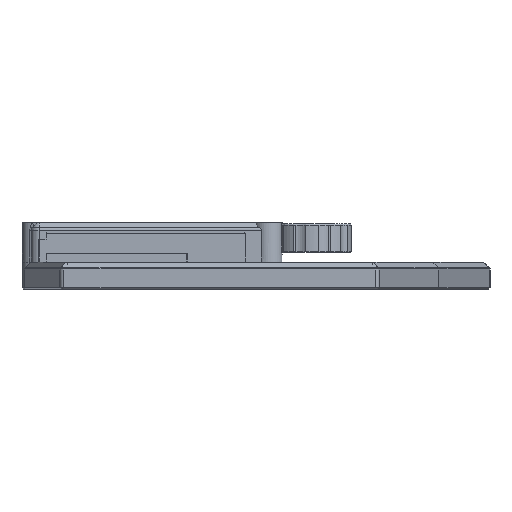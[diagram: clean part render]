
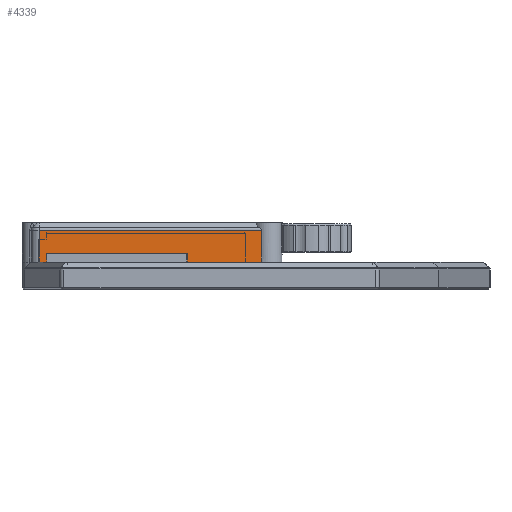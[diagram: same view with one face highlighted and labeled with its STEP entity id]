
A CAD part, left-side view. The second image highlights one B-rep face of the part: STEP entity #4339.
In plain terms, the highlighted planar face has unit normal (-1, 0, 0).
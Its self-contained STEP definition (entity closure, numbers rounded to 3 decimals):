
#3771=CARTESIAN_POINT('',(35.474,-91.828,10.15));
#3772=VERTEX_POINT('',#3771);
#3780=CARTESIAN_POINT('',(35.474,-73.321,10.15));
#3781=VERTEX_POINT('',#3780);
#3782=CARTESIAN_POINT('',(35.474,-73.321,10.15));
#3783=DIRECTION('',(0.,-1.,0.));
#3784=VECTOR('',#3783,18.507);
#3785=LINE('',#3782,#3784);
#3786=EDGE_CURVE('',#3781,#3772,#3785,.T.);
#3811=CARTESIAN_POINT('',(35.474,-73.321,12.35));
#3812=VERTEX_POINT('',#3811);
#3813=CARTESIAN_POINT('',(35.474,-73.321,12.35));
#3814=DIRECTION('',(0.,0.,-1.));
#3815=VECTOR('',#3814,2.2);
#3816=LINE('',#3813,#3815);
#3817=EDGE_CURVE('',#3812,#3781,#3816,.T.);
#3833=CARTESIAN_POINT('',(35.475,-38.321,12.35));
#3834=VERTEX_POINT('',#3833);
#3835=CARTESIAN_POINT('',(35.475,-38.321,12.35));
#3836=DIRECTION('',(0.,-1.,0.));
#3837=VECTOR('',#3836,35.);
#3838=LINE('',#3835,#3837);
#3839=EDGE_CURVE('',#3834,#3812,#3838,.T.);
#3865=CARTESIAN_POINT('',(35.475,-38.321,10.15));
#3866=VERTEX_POINT('',#3865);
#3867=CARTESIAN_POINT('',(35.475,-38.321,12.35));
#3868=DIRECTION('',(0.,0.,-1.));
#3869=VECTOR('',#3868,2.2);
#3870=LINE('',#3867,#3869);
#3871=EDGE_CURVE('',#3834,#3866,#3870,.T.);
#3920=CARTESIAN_POINT('',(35.475,-36.497,10.15));
#3921=VERTEX_POINT('',#3920);
#3922=CARTESIAN_POINT('',(35.475,-36.497,10.15));
#3923=DIRECTION('',(0.,-1.,0.));
#3924=VECTOR('',#3923,1.823);
#3925=LINE('',#3922,#3924);
#3926=EDGE_CURVE('',#3921,#3866,#3925,.T.);
#4294=CARTESIAN_POINT('',(35.475,-36.497,18.086));
#4295=VERTEX_POINT('',#4294);
#4296=CARTESIAN_POINT('',(35.475,-36.497,10.15));
#4297=DIRECTION('',(-0.,-0.,1.));
#4298=VECTOR('',#4297,7.936);
#4299=LINE('',#4296,#4298);
#4300=EDGE_CURVE('',#3921,#4295,#4299,.T.);
#4312=CARTESIAN_POINT('',(35.474,-66.041,13.15));
#4313=DIRECTION('',(-1.,0.,0.));
#4314=DIRECTION('',(0.,1.,0.));
#4315=AXIS2_PLACEMENT_3D('',#4312,#4313,#4314);
#4316=PLANE('',#4315);
#4317=CARTESIAN_POINT('',(35.474,-91.828,18.086));
#4318=VERTEX_POINT('',#4317);
#4319=CARTESIAN_POINT('',(35.475,-36.497,18.086));
#4320=DIRECTION('',(0.,-1.,-0.));
#4321=VECTOR('',#4320,55.331);
#4322=LINE('',#4319,#4321);
#4323=EDGE_CURVE('',#4295,#4318,#4322,.T.);
#4324=ORIENTED_EDGE('',*,*,#4323,.F.);
#4325=ORIENTED_EDGE('',*,*,#4300,.F.);
#4326=ORIENTED_EDGE('',*,*,#3926,.T.);
#4327=ORIENTED_EDGE('',*,*,#3871,.F.);
#4328=ORIENTED_EDGE('',*,*,#3839,.T.);
#4329=ORIENTED_EDGE('',*,*,#3817,.T.);
#4330=ORIENTED_EDGE('',*,*,#3786,.T.);
#4331=CARTESIAN_POINT('',(35.474,-91.828,18.086));
#4332=DIRECTION('',(0.,0.,-1.));
#4333=VECTOR('',#4332,7.936);
#4334=LINE('',#4331,#4333);
#4335=EDGE_CURVE('',#4318,#3772,#4334,.T.);
#4336=ORIENTED_EDGE('',*,*,#4335,.F.);
#4337=EDGE_LOOP('',(#4324,#4325,#4326,#4327,#4328,#4329,#4330,#4336));
#4338=FACE_BOUND('',#4337,.T.);
#4339=ADVANCED_FACE('',(#4338),#4316,.T.);
